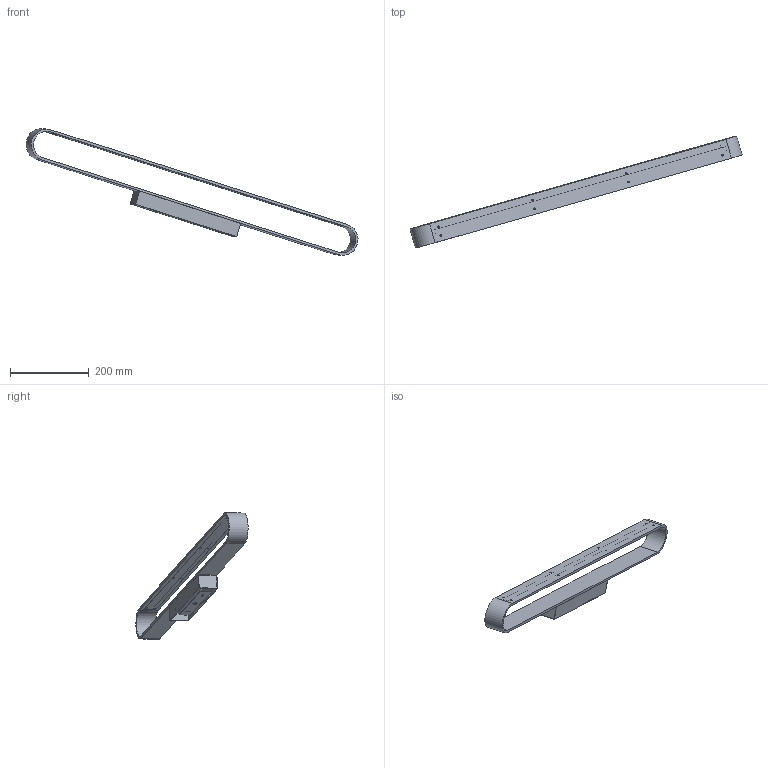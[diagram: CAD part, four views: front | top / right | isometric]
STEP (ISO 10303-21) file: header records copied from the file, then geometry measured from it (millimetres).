
FILE_DESCRIPTION (( 'STEP AP214' ), '1' );
FILE_NAME ('GALA-A3189273.STEP', '2026-01-14T06:42:43', ( '' ), ( '' ), 'SwSTEP 2.0', 'SolidWorks 2025', '' );
FILE_SCHEMA (( 'AUTOMOTIVE_DESIGN' ));
Length unit declared in the file: millimetre
Products named in the file (8): M3 screws - 副本 (4)_默认; lampbody_默认; acrylick 270_默认; M4 - 副本_默认; GALA-A3189273; lampbase_默认; bracket _默认; M4_默认
Assembly tree (13 placements, depth 2):
  GALA-A3189273
    bracket _默认
    lampbase_默认
    lampbody_默认
    M3 screws - 副本 (4)_默认  x7
    M4_默认
    M4 - 副本_默认
    acrylick 270_默认
Bounding box: 844.03 x 285.13 x 321.77 mm (x, y, z)
Volume: 602018.5 mm3; surface area: 368840 mm2
Topology: 13 solids, 13 shells, 317 faces, 742 edges, 484 vertices
Faces by surface type: plane 180, cylinder 76, bspline 47, cone 14
Full cylindrical faces by diameter (mm): 3 x2, 3.5 x16, 5 x4, 6 x8, 12 x1
Entity records: 15536 total; most frequent: CARTESIAN_POINT 10483, DIRECTION 952, ORIENTED_EDGE 944, EDGE_CURVE 472, AXIS2_PLACEMENT_3D 344, VERTEX_POINT 325, EDGE_LOOP 321, LINE 264
